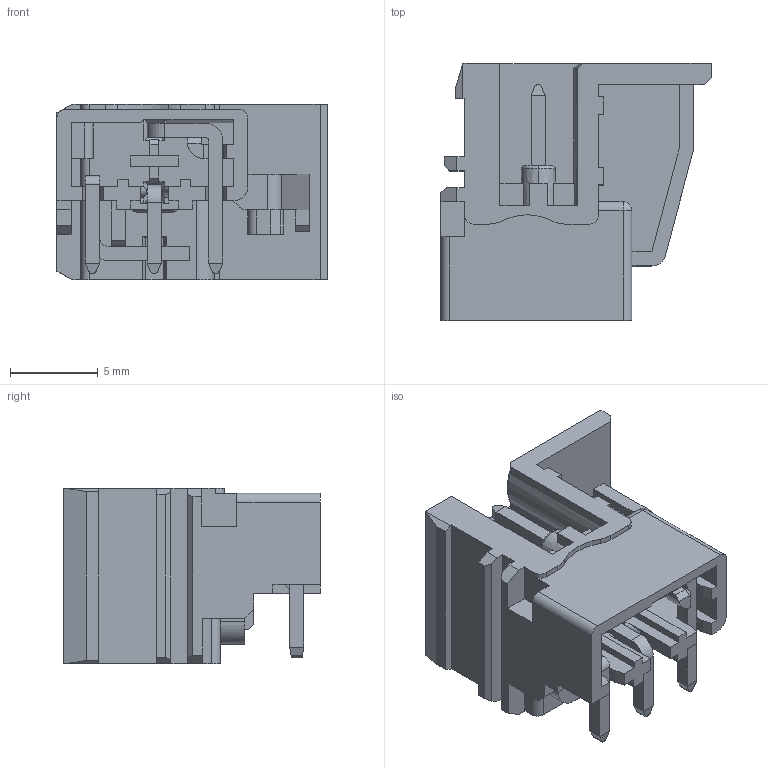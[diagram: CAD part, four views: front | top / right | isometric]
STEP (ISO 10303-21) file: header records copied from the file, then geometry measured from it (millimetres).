
FILE_DESCRIPTION((''),'2;1');
FILE_NAME('EU03P-L_SW0001','2019-05-07T',('zhenbing.lai'),(''),'CREO PARAMETRIC BY PTC INC, 2016260','CREO PARAMETRIC BY PTC INC, 2016260','');
FILE_SCHEMA(('CONFIG_CONTROL_DESIGN'));
Length unit declared in the file: millimetre
Products named in the file (1): EU03P-L_SW0001
Bounding box: 15.35 x 14.6 x 10 mm (x, y, z)
Volume: 692.2 mm3; surface area: 1848 mm2
Topology: 1 solids, 1 shells, 541 faces, 1566 edges, 1018 vertices
Faces by surface type: plane 473, cylinder 47, cone 11, torus 6, bspline 3, sphere 1
Entity records: 18009 total; most frequent: CARTESIAN_POINT 3766, ORIENTED_EDGE 3132, DIRECTION 2712, EDGE_CURVE 1566, VECTOR 1352, LINE 1352, VERTEX_POINT 1018, AXIS2_PLACEMENT_3D 680
